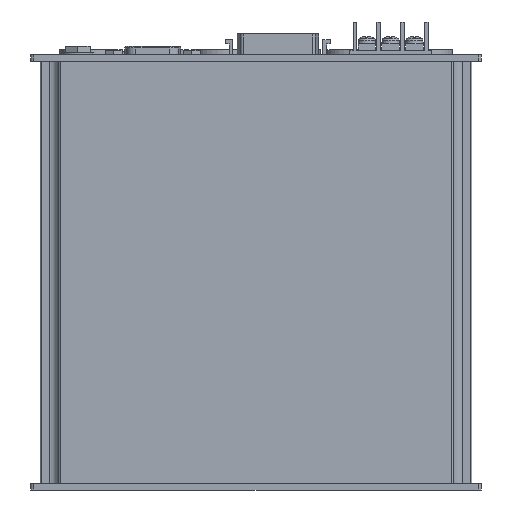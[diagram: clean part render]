
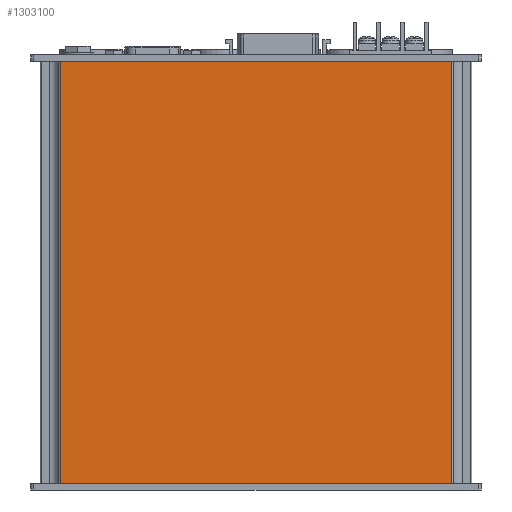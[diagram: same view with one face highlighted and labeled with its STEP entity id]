
A CAD part, front view. The second image highlights one B-rep face of the part: STEP entity #1303100.
In plain terms, the highlighted planar face has unit normal (0, -1, 0).
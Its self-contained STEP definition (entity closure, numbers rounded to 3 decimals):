
#5040=CARTESIAN_POINT('',(9.5,2.,-135.));
#5050=VERTEX_POINT('',#5040);
#5080=CARTESIAN_POINT('',(72.,2.,-135.));
#5090=DIRECTION('',(1.,0.,0.));
#5100=VECTOR('',#5090,1.);
#5110=LINE('',#5080,#5100);
#5120=CARTESIAN_POINT('',(134.5,2.,-135.));
#5130=VERTEX_POINT('',#5120);
#5140=EDGE_CURVE('',#5050,#5130,#5110,.T.);
#19850=CARTESIAN_POINT('',(134.5,2.,0.));
#19860=VERTEX_POINT('',#19850);
#19890=CARTESIAN_POINT('',(72.,2.,0.));
#19900=DIRECTION('',(-1.,0.,0.));
#19910=VECTOR('',#19900,1.);
#19920=LINE('',#19890,#19910);
#19930=CARTESIAN_POINT('',(9.5,2.,0.));
#19940=VERTEX_POINT('',#19930);
#19950=EDGE_CURVE('',#19860,#19940,#19920,.T.);
#1302830=CARTESIAN_POINT('',(9.5,2.,-135.));
#1302840=DIRECTION('',(0.,0.,1.));
#1302850=VECTOR('',#1302840,1.);
#1302860=LINE('',#1302830,#1302850);
#1302870=EDGE_CURVE('',#5050,#19940,#1302860,.T.);
#1302940=CARTESIAN_POINT('',(141.,2.,-135.));
#1302950=DIRECTION('',(-0.,-1.,-0.));
#1302960=DIRECTION('',(-1.,0.,0.));
#1302970=AXIS2_PLACEMENT_3D('',#1302940,#1302950,#1302960);
#1302980=PLANE('',#1302970);
#1302990=ORIENTED_EDGE('',*,*,#5140,.T.);
#1303000=ORIENTED_EDGE('',*,*,#1302870,.F.);
#1303010=ORIENTED_EDGE('',*,*,#19950,.T.);
#1303020=CARTESIAN_POINT('',(134.5,2.,-135.));
#1303030=DIRECTION('',(0.,0.,-1.));
#1303040=VECTOR('',#1303030,1.);
#1303050=LINE('',#1303020,#1303040);
#1303060=EDGE_CURVE('',#19860,#5130,#1303050,.T.);
#1303070=ORIENTED_EDGE('',*,*,#1303060,.F.);
#1303080=EDGE_LOOP('',(#1303070,#1303010,#1303000,#1302990));
#1303090=FACE_OUTER_BOUND('',#1303080,.T.);
#1303100=ADVANCED_FACE('',(#1303090),#1302980,.T.);
